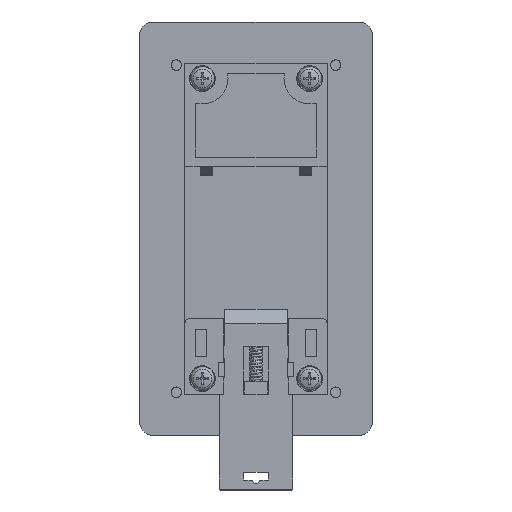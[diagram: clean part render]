
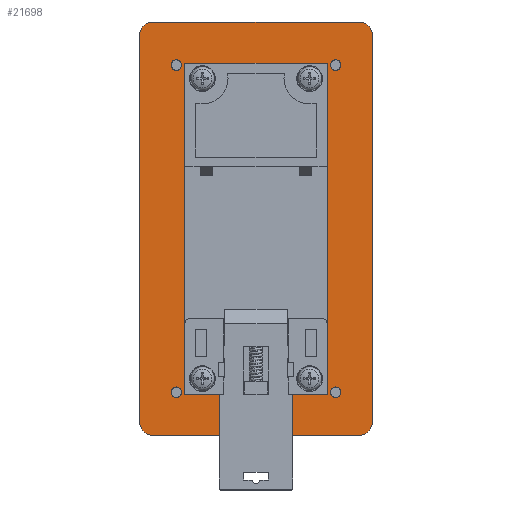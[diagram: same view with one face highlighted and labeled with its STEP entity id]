
A CAD part, top view. The second image highlights one B-rep face of the part: STEP entity #21698.
In plain terms, the highlighted planar face has unit normal (0, 0, 1).
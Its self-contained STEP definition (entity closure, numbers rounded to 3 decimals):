
#449=FACE_BOUND('',#3697,.T.);
#450=FACE_BOUND('',#3698,.T.);
#451=FACE_BOUND('',#3699,.T.);
#452=FACE_BOUND('',#3700,.T.);
#453=FACE_BOUND('',#3701,.T.);
#888=CIRCLE('',#23213,3.);
#890=CIRCLE('',#23217,3.);
#892=CIRCLE('',#23221,3.);
#894=CIRCLE('',#23225,3.);
#896=CIRCLE('',#23229,1.23);
#897=CIRCLE('',#23231,1.23);
#898=CIRCLE('',#23233,1.23);
#899=CIRCLE('',#23234,1.23);
#1337=PLANE('',#23232);
#2368=FACE_OUTER_BOUND('',#3696,.T.);
#3696=EDGE_LOOP('',(#15810,#15811,#15812,#15813,#15814,#15815,#15816,#15817));
#3697=EDGE_LOOP('',(#15818));
#3698=EDGE_LOOP('',(#15819));
#3699=EDGE_LOOP('',(#15820));
#3700=EDGE_LOOP('',(#15821));
#3701=EDGE_LOOP('',(#15822,#15823,#15824,#15825));
#4829=LINE('',#30730,#6874);
#4841=LINE('',#30755,#6886);
#4852=LINE('',#30776,#6897);
#5000=LINE('',#31262,#7045);
#5194=LINE('',#34907,#7239);
#5197=LINE('',#34918,#7242);
#5201=LINE('',#34930,#7246);
#5205=LINE('',#34942,#7250);
#6874=VECTOR('',#24664,33.);
#6886=VECTOR('',#24678,33.);
#6897=VECTOR('',#24691,76.9);
#7045=VECTOR('',#25017,76.9);
#7239=VECTOR('',#26119,48.);
#7242=VECTOR('',#26130,90.);
#7246=VECTOR('',#26142,48.);
#7250=VECTOR('',#26154,90.);
#9032=VERTEX_POINT('',#30726);
#9034=VERTEX_POINT('',#30729);
#9045=VERTEX_POINT('',#30752);
#9046=VERTEX_POINT('',#30754);
#9557=VERTEX_POINT('',#34901);
#9559=VERTEX_POINT('',#34905);
#9561=VERTEX_POINT('',#34911);
#9562=VERTEX_POINT('',#34915);
#9565=VERTEX_POINT('',#34923);
#9566=VERTEX_POINT('',#34927);
#9569=VERTEX_POINT('',#34935);
#9570=VERTEX_POINT('',#34939);
#9573=VERTEX_POINT('',#34951);
#9574=VERTEX_POINT('',#34954);
#9575=VERTEX_POINT('',#34957);
#9576=VERTEX_POINT('',#34959);
#11100=EDGE_CURVE('',#9034,#9032,#4829,.T.);
#11112=EDGE_CURVE('',#9046,#9045,#4841,.T.);
#11123=EDGE_CURVE('',#9032,#9046,#4852,.T.);
#11299=EDGE_CURVE('',#9045,#9034,#5000,.T.);
#11850=EDGE_CURVE('',#9557,#9559,#5194,.T.);
#11853=EDGE_CURVE('',#9561,#9559,#888,.T.);
#11855=EDGE_CURVE('',#9561,#9562,#5197,.T.);
#11859=EDGE_CURVE('',#9565,#9562,#890,.T.);
#11861=EDGE_CURVE('',#9565,#9566,#5201,.T.);
#11865=EDGE_CURVE('',#9569,#9566,#892,.T.);
#11867=EDGE_CURVE('',#9569,#9570,#5205,.T.);
#11870=EDGE_CURVE('',#9557,#9570,#894,.T.);
#11872=EDGE_CURVE('',#9573,#9573,#896,.T.);
#11873=EDGE_CURVE('',#9574,#9574,#897,.T.);
#11874=EDGE_CURVE('',#9575,#9575,#898,.T.);
#11875=EDGE_CURVE('',#9576,#9576,#899,.T.);
#15810=ORIENTED_EDGE('',*,*,#11870,.F.);
#15811=ORIENTED_EDGE('',*,*,#11850,.T.);
#15812=ORIENTED_EDGE('',*,*,#11853,.F.);
#15813=ORIENTED_EDGE('',*,*,#11855,.T.);
#15814=ORIENTED_EDGE('',*,*,#11859,.F.);
#15815=ORIENTED_EDGE('',*,*,#11861,.T.);
#15816=ORIENTED_EDGE('',*,*,#11865,.F.);
#15817=ORIENTED_EDGE('',*,*,#11867,.T.);
#15818=ORIENTED_EDGE('',*,*,#11874,.T.);
#15819=ORIENTED_EDGE('',*,*,#11875,.T.);
#15820=ORIENTED_EDGE('',*,*,#11872,.T.);
#15821=ORIENTED_EDGE('',*,*,#11873,.T.);
#15822=ORIENTED_EDGE('',*,*,#11123,.T.);
#15823=ORIENTED_EDGE('',*,*,#11112,.T.);
#15824=ORIENTED_EDGE('',*,*,#11299,.T.);
#15825=ORIENTED_EDGE('',*,*,#11100,.T.);
#21698=ADVANCED_FACE('',(#2368,#449,#450,#451,#452,#453),#1337,.F.);
#23213=AXIS2_PLACEMENT_3D('',#34913,#26125,#26126);
#23217=AXIS2_PLACEMENT_3D('',#34925,#26137,#26138);
#23221=AXIS2_PLACEMENT_3D('',#34937,#26149,#26150);
#23225=AXIS2_PLACEMENT_3D('',#34946,#26160,#26161);
#23229=AXIS2_PLACEMENT_3D('',#34952,#26168,#26169);
#23231=AXIS2_PLACEMENT_3D('',#34955,#26172,#26173);
#23232=AXIS2_PLACEMENT_3D('',#34956,#26174,#26175);
#23233=AXIS2_PLACEMENT_3D('',#34958,#26176,#26177);
#23234=AXIS2_PLACEMENT_3D('',#34960,#26178,#26179);
#24664=DIRECTION('',(1.,0.,0.));
#24678=DIRECTION('',(-1.,0.,0.));
#24691=DIRECTION('',(0.,-1.,0.));
#25017=DIRECTION('',(0.,1.,0.));
#26119=DIRECTION('',(1.,0.,0.));
#26125=DIRECTION('center_axis',(0.,0.,
-1.));
#26126=DIRECTION('ref_axis',(0.707,-0.707,0.));
#26130=DIRECTION('',(0.,1.,0.));
#26137=DIRECTION('center_axis',(0.,0.,
-1.));
#26138=DIRECTION('ref_axis',(0.707,0.707,0.));
#26142=DIRECTION('',(-1.,0.,0.));
#26149=DIRECTION('center_axis',(0.,0.,
-1.));
#26150=DIRECTION('ref_axis',(-0.707,0.707,0.));
#26154=DIRECTION('',(0.,-1.,0.));
#26160=DIRECTION('center_axis',(0.,0.,
-1.));
#26161=DIRECTION('ref_axis',(-0.707,-0.707,0.));
#26168=DIRECTION('center_axis',(0.,0.,
-1.));
#26169=DIRECTION('ref_axis',(0.,1.,0.));
#26172=DIRECTION('center_axis',(0.,0.,
-1.));
#26173=DIRECTION('ref_axis',(0.,1.,0.));
#26174=DIRECTION('center_axis',(0.,0.,
-1.));
#26175=DIRECTION('ref_axis',(0.,1.,0.));
#26176=DIRECTION('center_axis',(0.,0.,
-1.));
#26177=DIRECTION('ref_axis',(0.,1.,0.));
#26178=DIRECTION('center_axis',(0.,0.,
-1.));
#26179=DIRECTION('ref_axis',(0.,1.,0.));
#30726=CARTESIAN_POINT('',(16.5,38.45,0.));
#30729=CARTESIAN_POINT('',(-16.5,38.45,0.));
#30730=CARTESIAN_POINT('',(-16.5,38.45,0.));
#30752=CARTESIAN_POINT('',(-16.5,-38.45,0.));
#30754=CARTESIAN_POINT('',(16.5,-38.45,0.));
#30755=CARTESIAN_POINT('',(16.5,-38.45,0.));
#30776=CARTESIAN_POINT('',(16.5,38.45,0.));
#31262=CARTESIAN_POINT('',(-16.5,-38.45,0.));
#34901=CARTESIAN_POINT('',(-24.,-47.991,0.));
#34905=CARTESIAN_POINT('',(24.,-47.991,0.));
#34907=CARTESIAN_POINT('',(-27.,-47.991,0.));
#34911=CARTESIAN_POINT('',(27.,-44.991,0.));
#34913=CARTESIAN_POINT('Origin',(24.,-44.991,0.));
#34915=CARTESIAN_POINT('',(27.,45.009,0.));
#34918=CARTESIAN_POINT('',(27.,-47.991,0.));
#34923=CARTESIAN_POINT('',(24.,48.009,0.));
#34925=CARTESIAN_POINT('Origin',(24.,45.009,0.));
#34927=CARTESIAN_POINT('',(-24.,48.009,0.));
#34930=CARTESIAN_POINT('',(27.,48.009,0.));
#34935=CARTESIAN_POINT('',(-27.,45.009,0.));
#34937=CARTESIAN_POINT('Origin',(-24.,45.009,0.));
#34939=CARTESIAN_POINT('',(-27.,-44.991,0.));
#34942=CARTESIAN_POINT('',(-27.,48.009,0.));
#34946=CARTESIAN_POINT('Origin',(-24.,-44.991,0.));
#34951=CARTESIAN_POINT('',(18.5,-39.221,0.));
#34952=CARTESIAN_POINT('Origin',(18.5,-37.991,0.));
#34954=CARTESIAN_POINT('',(-18.5,36.779,0.));
#34955=CARTESIAN_POINT('Origin',(-18.5,38.009,0.));
#34956=CARTESIAN_POINT('Origin',(0.,0.009,
0.));
#34957=CARTESIAN_POINT('',(-18.5,-39.221,0.));
#34958=CARTESIAN_POINT('Origin',(-18.5,-37.991,0.));
#34959=CARTESIAN_POINT('',(18.5,36.779,0.));
#34960=CARTESIAN_POINT('Origin',(18.5,38.009,0.));
